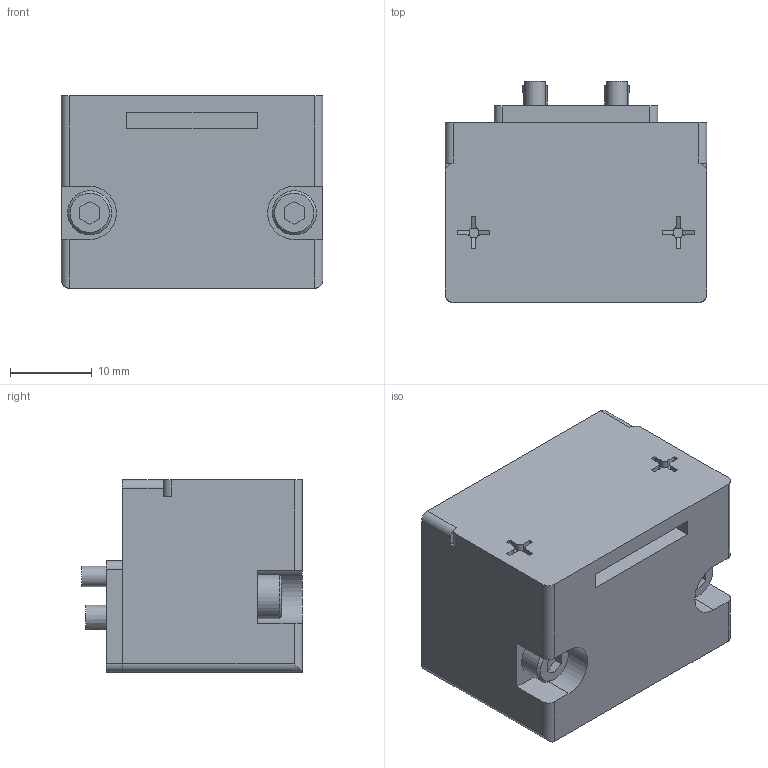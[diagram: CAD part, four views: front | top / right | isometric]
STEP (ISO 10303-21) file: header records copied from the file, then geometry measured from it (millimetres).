
FILE_DESCRIPTION(('STEP AP214'),'1');
FILE_NAME('KHB-1RS-D38_ver1.stp','2026-04-23T23:32:45',(' '),(' '),'Spatial InterOp 3D',' ',' ');
FILE_SCHEMA(('AUTOMOTIVE_DESIGN { 1 0 10303 214 1 1 1 1 }'));
Length unit declared in the file: millimetre
Products named in the file (1): KHB-1RS-D38_ver1
Bounding box: 32 x 27 x 23.5 mm (x, y, z)
Volume: 15957.5 mm3; surface area: 6484.5 mm2
Topology: 1 solids, 13 shells, 255 faces, 548 edges, 362 vertices
Faces by surface type: plane 171, cylinder 72, cone 12
Full cylindrical faces by diameter (mm): 1.02 x8, 1.8 x8, 2 x8, 2.15 x2, 2.5 x8, 3 x4, 3.5 x4, 5.41 x4, 6.5 x2
Entity records: 8486 total; most frequent: DIRECTION 1140, CARTESIAN_POINT 1070, ORIENTED_EDGE 940, EDGE_CURVE 470, AXIS2_PLACEMENT_3D 414, EDGE_LOOP 366, VERTEX_POINT 344, LINE 312
